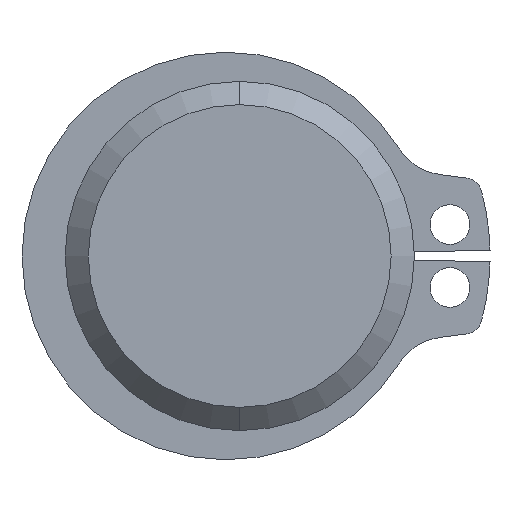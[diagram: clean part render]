
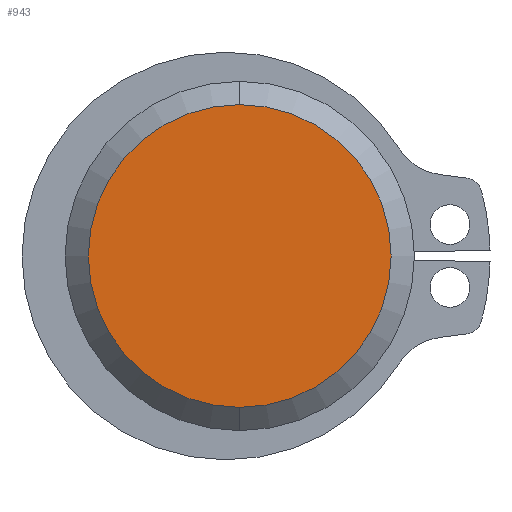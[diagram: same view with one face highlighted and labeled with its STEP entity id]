
A CAD part, left-side view. The second image highlights one B-rep face of the part: STEP entity #943.
In plain terms, the highlighted planar face has unit normal (-1, 0, 0).
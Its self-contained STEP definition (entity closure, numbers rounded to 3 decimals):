
#93 = EDGE_LOOP ( 'NONE', ( #155, #373 ) ) ;
#155 = ORIENTED_EDGE ( 'NONE', *, *, #975, .T. ) ;
#326 = VERTEX_POINT ( 'NONE', #1242 ) ;
#334 = VERTEX_POINT ( 'NONE', #1330 ) ;
#373 = ORIENTED_EDGE ( 'NONE', *, *, #1468, .T. ) ;
#441 = CIRCLE ( 'NONE', #1202, 6.5 ) ;
#492 = FACE_OUTER_BOUND ( 'NONE', #93, .T. ) ;
#697 = CIRCLE ( 'NONE', #973, 6.5 ) ;
#859 = CARTESIAN_POINT ( 'NONE',  ( -34.75, 0., 0. ) ) ;
#860 = DIRECTION ( 'NONE',  ( -1., 0., 0. ) ) ;
#861 = DIRECTION ( 'NONE',  ( 0., 0., -1. ) ) ;
#943 = ADVANCED_FACE ( 'NONE', ( #492 ), #1128, .F. ) ;
#973 = AXIS2_PLACEMENT_3D ( 'NONE', #859, #860, #861 ) ;
#975 = EDGE_CURVE ( 'NONE', #334, #326, #697, .T. ) ;
#1012 = AXIS2_PLACEMENT_3D ( 'NONE', #1139, #1126, #1125 ) ;
#1125 = DIRECTION ( 'NONE',  ( 0., 0., -1. ) ) ;
#1126 = DIRECTION ( 'NONE',  ( 1., 0., 0. ) ) ;
#1128 = PLANE ( 'NONE',  #1012 ) ;
#1139 = CARTESIAN_POINT ( 'NONE',  ( -34.75, 7.5, 0. ) ) ;
#1202 = AXIS2_PLACEMENT_3D ( 'NONE', #1666, #1662, #1669 ) ;
#1242 = CARTESIAN_POINT ( 'NONE',  ( -34.75, 0., 6.5 ) ) ;
#1330 = CARTESIAN_POINT ( 'NONE',  ( -34.75, 0., -6.5 ) ) ;
#1468 = EDGE_CURVE ( 'NONE', #326, #334, #441, .T. ) ;
#1662 = DIRECTION ( 'NONE',  ( -1., 0., 0. ) ) ;
#1666 = CARTESIAN_POINT ( 'NONE',  ( -34.75, 0., 0. ) ) ;
#1669 = DIRECTION ( 'NONE',  ( 0., 0., -1. ) ) ;
